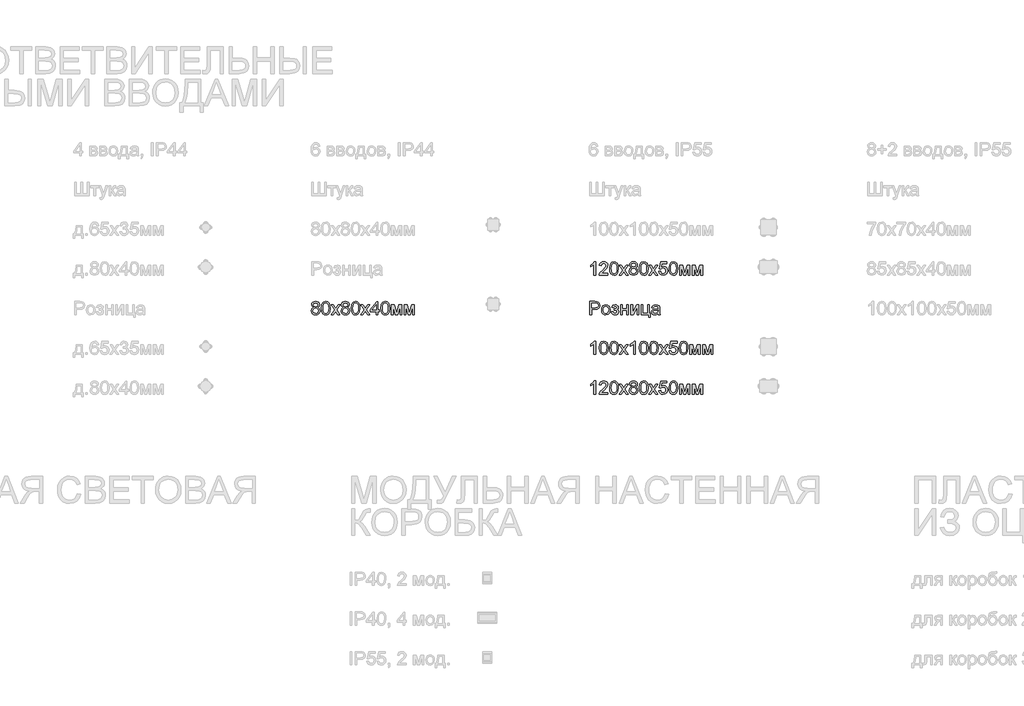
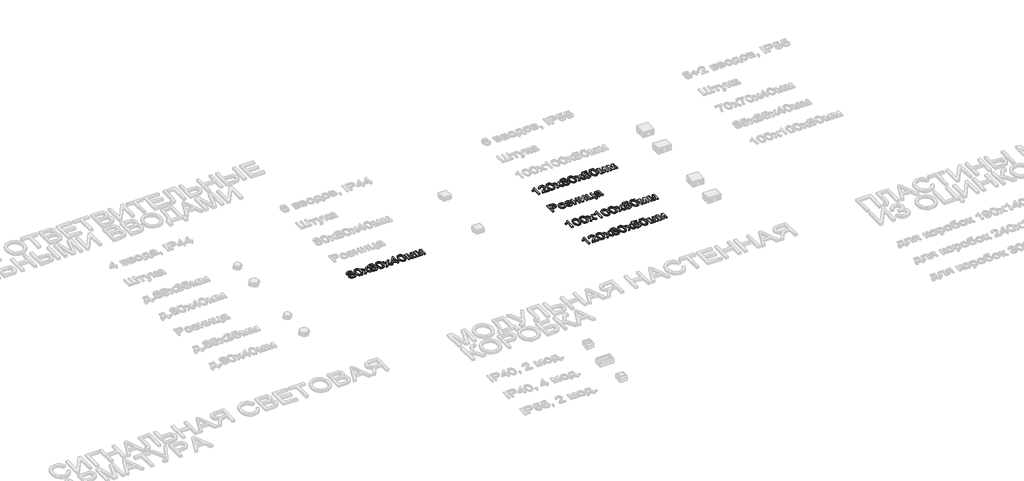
# One storey, part 14 of 98: 5 proxies.
"""IFC4 building model written with IfcOpenShell, lengths in millimetres."""

from ifc_helpers import new_model, si_unit, origin, origin_with_axes, place, context, project, spatial, polyline, outline, extrude, element, save

model = new_model("IFC4")

# Units and contexts
model_context = context("Model", 3, world=origin())
ifc_project = project(units=[si_unit("LENGTHUNIT", "METRE", prefix="MILLI")], contexts=[model_context])

# Site, building, storey
site = spatial("IfcSite", under=ifc_project)
building = spatial("IfcBuilding", under=site)
storey = spatial("IfcBuildingStorey", under=building, Name="Этаж 01", Elevation=0.0)

# Proxies
placement = place(None, origin())
element("IfcBuildingElementProxy", 1, Name="100", ObjectType="100", at=placement, inside=storey, context=model_context, shape_type="SweptSolid", body=[
    extrude(outline(polyline([(3868.7462166, -46304.1827144), (3857.3050866, -46296.3836161), (3853.5894784, -46284.2435102), (3855.6128294, -46274.4271923), (3861.6828823, -46266.3153943), (3871.1190555, -46260.8707408), (3883.2407672, -46259.0558563), (3895.4360554, -46260.9136604), (3904.9948559, -46266.4870726), (3911.1752734, -46274.7276293), (3913.2354126, -46284.5868668), (3909.5688553, -46296.4204043), (3898.4465563, -46304.1827144), (3911.8006728, -46314.0296891), (3916.3746722, -46330.2778106), (3914.1060666, -46342.2830264), (3907.3002497, -46352.2035775), (3896.7910874, -46358.8622416), (3883.4124455, -46361.0817963), (3870.0338036, -46358.8530446), (3859.5246413, -46352.1667893), (3852.7188243, -46342.151202), (3850.4502187, -46329.934454), (3855.2081592, -46313.3061879), (3868.7462166, -46304.1827144)]), holes=[polyline([(3866.1465172, -46284.6113922), (3870.5978893, -46294.4706297), (3883.5595983, -46298.2966025), (3896.2637898, -46294.4951552), (3900.6783738, -46285.175478), (3896.116637, -46275.524707), (3883.4124455, -46271.6128951), (3870.6714657, -46275.4388678), (3866.1465172, -46284.6113922)]), polyline([(3863.0072575, -46329.4929957), (3865.1041849, -46338.9475629), (3872.5231384, -46346.02316), (3883.5105473, -46348.5247575), (3892.0576724, -46347.2095794), (3898.4710818, -46343.264045), (3903.8176335, -46329.8854031), (3898.2994035, -46316.2492438), (3891.7388413, -46312.2025419), (3883.0936144, -46310.8536412), (3874.666051, -46312.1841478), (3868.3170209, -46316.1756674), (3863.0072575, -46329.4929957)])]), origin_with_axes(), (0.0, 0.0, 1.0), 10.0),
    extrude(outline(polyline([(3927.3620812, -46310.0933518), (3931.0531639, -46281.1900897), (3942.0160473, -46264.5250353), (3960.3243079, -46259.0558563), (3974.9905368, -46262.2932179), (3985.1195544, -46271.6251578), (3991.0056663, -46286.4875904), (3993.2865347, -46310.0933518), (3989.6322402, -46338.8739865), (3978.706145, -46355.5758291), (3970.4747853, -46359.7053045), (3960.3243079, -46361.0817963), (3947.2767598, -46358.6905633), (3937.3684714, -46351.5168644), (3929.8636787, -46334.5268476), (3927.3620812, -46310.0933518)]), holes=[polyline([(3939.9191199, -46310.0688263), (3941.3906479, -46329.8210238), (3945.8052319, -46341.2529568), (3952.3780568, -46346.7068073), (3960.3243079, -46348.5247575), (3968.270559, -46346.700676), (3974.843384, -46341.2284313), (3979.257968, -46329.7903669), (3980.7294959, -46310.0688263), (3979.3070189, -46290.7611529), (3975.0395877, -46279.2403151), (3968.4790255, -46273.5197501), (3960.1771551, -46271.6128951), (3952.3167432, -46273.2928895), (3946.0014356, -46278.3328729), (3941.4396988, -46290.5710806), (3939.9191199, -46310.0688263)])]), origin_with_axes(), (0.0, 0.0, 1.0), 10.0),
    extrude(outline(polyline([(3999.5650541, -46359.5121665), (4026.3959143, -46322.4296613), (4001.1346839, -46285.7395637), (4016.2423712, -46285.7395637), (4028.431528, -46303.3978995), (4034.1214362, -46311.736558), (4039.0510549, -46304.9184784), (4052.9324689, -46285.7395637), (4068.0401561, -46285.7395637), (4041.5036015, -46322.4296613), (4067.0591375, -46359.5121665), (4051.9514502, -46359.5121665), (4036.5739828, -46337.2185176), (4033.7535542, -46333.1472901), (4014.6727414, -46359.5121665), (3999.5650541, -46359.5121665)])), origin_with_axes(), (0.0, 0.0, 1.0), 10.0),
    extrude(outline(polyline([(4093.2032846, -46304.1827144), (4081.7621545, -46296.3836161), (4078.0465464, -46284.2435102), (4080.0698974, -46274.4271923), (4086.1399503, -46266.3153943), (4095.5761235, -46260.8707408), (4107.6978352, -46259.0558563), (4119.8931233, -46260.9136604), (4129.4519239, -46266.4870726), (4135.6323414, -46274.7276293), (4137.6924805, -46284.5868668), (4134.0259233, -46296.4204043), (4122.9036243, -46304.1827144), (4136.2577408, -46314.0296891), (4140.8317402, -46330.2778106), (4138.5631346, -46342.2830264), (4131.7573177, -46352.2035775), (4121.2481554, -46358.8622416), (4107.8695135, -46361.0817963), (4094.4908716, -46358.8530446), (4083.9817092, -46352.1667893), (4077.1758923, -46342.151202), (4074.9072867, -46329.934454), (4079.6652272, -46313.3061879), (4093.2032846, -46304.1827144)]), holes=[polyline([(4087.4643255, -46329.4929957), (4089.5612528, -46338.9475629), (4096.9802064, -46346.02316), (4107.9676153, -46348.5247575), (4116.5147404, -46347.2095794), (4122.9281498, -46343.264045), (4128.2747015, -46329.8854031), (4122.7564715, -46316.2492438), (4116.1959093, -46312.2025419), (4107.5506824, -46310.8536412), (4099.123119, -46312.1841478), (4092.7740889, -46316.1756674), (4087.4643255, -46329.4929957)]), polyline([(4090.6035852, -46284.6113922), (4095.0549573, -46294.4706297), (4108.0166663, -46298.2966025), (4120.7208578, -46294.4951552), (4125.1354418, -46285.175478), (4120.573705, -46275.524707), (4107.8695135, -46271.6128951), (4095.1285337, -46275.4388678), (4090.6035852, -46284.6113922)])]), origin_with_axes(), (0.0, 0.0, 1.0), 10.0),
    extrude(outline(polyline([(4151.8191492, -46310.0933518), (4155.5102318, -46281.1900897), (4166.4731153, -46264.5250353), (4184.7813759, -46259.0558563), (4199.4476048, -46262.2932179), (4209.5766224, -46271.6251578), (4215.4627343, -46286.4875904), (4217.7436027, -46310.0933518), (4214.0893082, -46338.8739865), (4203.163213, -46355.5758291), (4194.9318533, -46359.7053045), (4184.7813759, -46361.0817963), (4171.7338278, -46358.6905633), (4161.8255394, -46351.5168644), (4154.3207467, -46334.5268476), (4151.8191492, -46310.0933518)]), holes=[polyline([(4164.3761879, -46310.0688263), (4165.8477159, -46329.8210238), (4170.2622998, -46341.2529568), (4176.8351248, -46346.7068073), (4184.7813759, -46348.5247575), (4192.727627, -46346.700676), (4199.300452, -46341.2284313), (4203.7150359, -46329.7903669), (4205.1865639, -46310.0688263), (4203.7640869, -46290.7611529), (4199.4966557, -46279.2403151), (4192.9360935, -46273.5197501), (4184.6342231, -46271.6128951), (4176.7738112, -46273.2928895), (4170.4585036, -46278.3328729), (4165.8967668, -46290.5710806), (4164.3761879, -46310.0688263)])]), origin_with_axes(), (0.0, 0.0, 1.0), 10.0),
    extrude(outline(polyline([(4224.0221221, -46359.5121665), (4250.8529823, -46322.4296613), (4225.5917519, -46285.7395637), (4240.6994392, -46285.7395637), (4252.888596, -46303.3978995), (4258.5785042, -46311.736558), (4263.5081229, -46304.9184784), (4277.3895368, -46285.7395637), (4292.4972241, -46285.7395637), (4265.9606695, -46322.4296613), (4291.5162055, -46359.5121665), (4276.4085182, -46359.5121665), (4261.0310508, -46337.2185176), (4258.2106222, -46333.1472901), (4239.1298093, -46359.5121665), (4224.0221221, -46359.5121665)])), origin_with_axes(), (0.0, 0.0, 1.0), 10.0),
    extrude(outline(polyline([(4340.1747307, -46359.5121665), (4340.1747307, -46335.9677188), (4294.6554652, -46335.9677188), (4294.6554652, -46323.41068), (4343.3139904, -46260.6254862), (4352.7317695, -46260.6254862), (4352.7317695, -46323.41068), (4365.2888082, -46323.41068), (4365.2888082, -46335.9677188), (4352.7317695, -46335.9677188), (4352.7317695, -46359.5121665), (4340.1747307, -46359.5121665)]), holes=[polyline([(4340.1747307, -46323.41068), (4340.1747307, -46284.6113922), (4310.1065089, -46323.41068), (4340.1747307, -46323.41068)])]), origin_with_axes(), (0.0, 0.0, 1.0), 10.0),
    extrude(outline(polyline([(4376.2762171, -46310.0933518), (4379.9672998, -46281.1900897), (4390.9301833, -46264.5250353), (4409.2384439, -46259.0558563), (4423.9046728, -46262.2932179), (4434.0336904, -46271.6251578), (4439.9198023, -46286.4875904), (4442.2006707, -46310.0933518), (4438.5463762, -46338.8739865), (4427.6202809, -46355.5758291), (4419.3889213, -46359.7053045), (4409.2384439, -46361.0817963), (4396.1908958, -46358.6905633), (4386.2826074, -46351.5168644), (4378.7778147, -46334.5268476), (4376.2762171, -46310.0933518)]), holes=[polyline([(4388.8332559, -46310.0688263), (4390.3047839, -46329.8210238), (4394.7193678, -46341.2529568), (4401.2921928, -46346.7068073), (4409.2384439, -46348.5247575), (4417.184695, -46346.700676), (4423.75752, -46341.2284313), (4428.1721039, -46329.7903669), (4429.6436319, -46310.0688263), (4428.2211549, -46290.7611529), (4423.9537237, -46279.2403151), (4417.3931615, -46273.5197501), (4409.0912911, -46271.6128951), (4401.2308792, -46273.2928895), (4394.9155716, -46278.3328729), (4390.3538348, -46290.5710806), (4388.8332559, -46310.0688263)])]), origin_with_axes(), (0.0, 0.0, 1.0), 10.0),
    extrude(outline(polyline([(4456.3273393, -46285.7395637), (4477.9342751, -46285.7395637), (4494.5870668, -46344.7968867), (4512.5397082, -46285.7395637), (4533.2392018, -46285.7395637), (4533.2392018, -46359.5121665), (4520.682163, -46359.5121665), (4520.682163, -46300.111487), (4502.6314198, -46359.5121665), (4486.1503064, -46359.5121665), (4468.8843781, -46297.2665329), (4468.8843781, -46359.5121665), (4456.3273393, -46359.5121665), (4456.3273393, -46285.7395637)])), origin_with_axes(), (0.0, 0.0, 1.0), 10.0),
    extrude(outline(polyline([(4552.0747599, -46285.7395637), (4573.6816958, -46285.7395637), (4590.3344874, -46344.7968867), (4608.2871288, -46285.7395637), (4628.9866224, -46285.7395637), (4628.9866224, -46359.5121665), (4616.4295836, -46359.5121665), (4616.4295836, -46300.111487), (4598.3788404, -46359.5121665), (4581.897727, -46359.5121665), (4564.6317987, -46297.2665329), (4564.6317987, -46359.5121665), (4552.0747599, -46359.5121665), (4552.0747599, -46285.7395637)])), origin_with_axes(), (0.0, 0.0, 1.0), 10.0),
])
element("IfcBuildingElementProxy", 2, Name="100", ObjectType="100", at=placement, inside=storey, context=model_context, shape_type="SweptSolid", body=[
    extrude(outline(polyline([(5997.5391141, -46059.5121665), (5984.9820753, -46059.5121665), (5984.9820753, -45981.2268779), (5973.0872241, -45989.7004265), (5959.8679978, -45996.0402596), (5959.8679978, -45984.1699338), (5978.2743603, -45972.4222355), (5989.4457102, -45959.0558563), (5997.5391141, -45959.0558563), (5997.5391141, -46059.5121665)])), origin_with_axes(), (0.0, 0.0, 1.0), 10.0),
    extrude(outline(polyline([(6091.7169049, -46046.9551277), (6091.7169049, -46059.5121665), (6025.7924513, -46059.5121665), (6027.141352, -46050.8546768), (6034.768772, -46037.5250859), (6050.4895959, -46022.9692216), (6072.1701082, -46002.0489988), (6077.5902362, -45987.8242283), (6072.4766765, -45976.3095219), (6059.1225601, -45971.6128951), (6045.2043579, -45976.1991573), (6039.9191199, -45988.8788234), (6027.3620812, -45987.3091935), (6030.4063047, -45975.1629563), (6036.9883267, -45966.2908689), (6046.7647907, -45960.8646095), (6059.3923402, -45959.0558563), (6072.1118602, -45961.0669445), (6081.8699301, -45967.1002093), (6088.0779388, -45976.1133182), (6090.147275, -45987.0639389), (6087.9154576, -45998.9710528), (6080.496504, -46011.2828369), (6062.5070744, -46028.4874515), (6048.0615748, -46040.5662437), (6042.396192, -46046.9551277), (6091.7169049, -46046.9551277)])), origin_with_axes(), (0.0, 0.0, 1.0), 10.0),
    extrude(outline(polyline([(6104.2739436, -46010.0933518), (6107.9650263, -45981.1900897), (6118.9279098, -45964.5250353), (6137.2361704, -45959.0558563), (6151.9023993, -45962.2932179), (6162.0314169, -45971.6251578), (6167.9175288, -45986.4875904), (6170.1983972, -46010.0933518), (6166.5441027, -46038.8739865), (6155.6180074, -46055.5758291), (6147.3866478, -46059.7053045), (6137.2361704, -46061.0817963), (6124.1886223, -46058.6905633), (6114.2803339, -46051.5168644), (6106.7755412, -46034.5268476), (6104.2739436, -46010.0933518)]), holes=[polyline([(6116.8309824, -46010.0688263), (6118.3025104, -46029.8210238), (6122.7170943, -46041.2529568), (6129.2899193, -46046.7068073), (6137.2361704, -46048.5247575), (6145.1824215, -46046.700676), (6151.7552465, -46041.2284313), (6156.1698304, -46029.7903669), (6157.6413584, -46010.0688263), (6156.2188813, -45990.7611529), (6151.9514502, -45979.2403151), (6145.390888, -45973.5197501), (6137.0890176, -45971.6128951), (6129.2286056, -45973.2928895), (6122.913298, -45978.3328729), (6118.3515613, -45990.5710806), (6116.8309824, -46010.0688263)])]), origin_with_axes(), (0.0, 0.0, 1.0), 10.0),
    extrude(outline(polyline([(6176.4769165, -46059.5121665), (6203.3077767, -46022.4296613), (6178.0465464, -45985.7395637), (6193.1542337, -45985.7395637), (6205.3433904, -46003.3978995), (6211.0332986, -46011.736558), (6215.9629174, -46004.9184784), (6229.8443313, -45985.7395637), (6244.9520186, -45985.7395637), (6218.415464, -46022.4296613), (6243.9709999, -46059.5121665), (6228.8633127, -46059.5121665), (6213.4858453, -46037.2185176), (6210.6654166, -46033.1472901), (6191.5846038, -46059.5121665), (6176.4769165, -46059.5121665)])), origin_with_axes(), (0.0, 0.0, 1.0), 10.0),
    extrude(outline(polyline([(6270.1151471, -46004.1827144), (6258.674017, -45996.3836161), (6254.9584089, -45984.2435102), (6256.9817598, -45974.4271923), (6263.0518127, -45966.3153943), (6272.4879859, -45960.8707408), (6284.6096977, -45959.0558563), (6296.8049858, -45960.9136604), (6306.3637863, -45966.4870726), (6312.5442038, -45974.7276293), (6314.604343, -45984.5868668), (6310.9377858, -45996.4204043), (6299.8154868, -46004.1827144), (6313.1696032, -46014.0296891), (6317.7436027, -46030.2778106), (6315.4749971, -46042.2830264), (6308.6691801, -46052.2035775), (6298.1600178, -46058.8622416), (6284.7813759, -46061.0817963), (6271.402734, -46058.8530446), (6260.8935717, -46052.1667893), (6254.0877548, -46042.151202), (6251.8191492, -46029.934454), (6256.5770896, -46013.3061879), (6270.1151471, -46004.1827144)]), holes=[polyline([(6264.3761879, -46029.4929957), (6266.4731153, -46038.9475629), (6273.8920689, -46046.02316), (6284.8794778, -46048.5247575), (6293.4266028, -46047.2095794), (6299.8400123, -46043.264045), (6305.1865639, -46029.8854031), (6299.668334, -46016.2492438), (6293.1077717, -46012.2025419), (6284.4625449, -46010.8536412), (6276.0349815, -46012.1841478), (6269.6859514, -46016.1756674), (6264.3761879, -46029.4929957)]), polyline([(6267.5154476, -45984.6113922), (6271.9668198, -45994.4706297), (6284.9285287, -45998.2966025), (6297.6327203, -45994.4951552), (6302.0473042, -45985.175478), (6297.4855675, -45975.524707), (6284.7813759, -45971.6128951), (6272.0403962, -45975.4388678), (6267.5154476, -45984.6113922)])]), origin_with_axes(), (0.0, 0.0, 1.0), 10.0),
    extrude(outline(polyline([(6328.7310116, -46010.0933518), (6332.4220943, -45981.1900897), (6343.3849778, -45964.5250353), (6361.6932384, -45959.0558563), (6376.3594673, -45962.2932179), (6386.4884849, -45971.6251578), (6392.3745968, -45986.4875904), (6394.6554652, -46010.0933518), (6391.0011707, -46038.8739865), (6380.0750754, -46055.5758291), (6371.8437158, -46059.7053045), (6361.6932384, -46061.0817963), (6348.6456903, -46058.6905633), (6338.7374019, -46051.5168644), (6331.2326092, -46034.5268476), (6328.7310116, -46010.0933518)]), holes=[polyline([(6341.2880504, -46010.0688263), (6342.7595784, -46029.8210238), (6347.1741623, -46041.2529568), (6353.7469873, -46046.7068073), (6361.6932384, -46048.5247575), (6369.6394895, -46046.700676), (6376.2123145, -46041.2284313), (6380.6268984, -46029.7903669), (6382.0984264, -46010.0688263), (6380.6759493, -45990.7611529), (6376.4085182, -45979.2403151), (6369.8479559, -45973.5197501), (6361.5460856, -45971.6128951), (6353.6856736, -45973.2928895), (6347.370366, -45978.3328729), (6342.8086293, -45990.5710806), (6341.2880504, -46010.0688263)])]), origin_with_axes(), (0.0, 0.0, 1.0), 10.0),
    extrude(outline(polyline([(6400.9339845, -46059.5121665), (6427.7648447, -46022.4296613), (6402.5036144, -45985.7395637), (6417.6113017, -45985.7395637), (6429.8004584, -46003.3978995), (6435.4903666, -46011.736558), (6440.4199854, -46004.9184784), (6454.3013993, -45985.7395637), (6469.4090866, -45985.7395637), (6442.872532, -46022.4296613), (6468.4280679, -46059.5121665), (6453.3203806, -46059.5121665), (6437.9429133, -46037.2185176), (6435.1224846, -46033.1472901), (6416.0416718, -46059.5121665), (6400.9339845, -46059.5121665)])), origin_with_axes(), (0.0, 0.0, 1.0), 10.0),
    extrude(outline(polyline([(6476.2762171, -46032.8284591), (6488.8332559, -46031.2588292), (6495.1608262, -46044.1960127), (6508.2819507, -46048.5247575), (6517.2827969, -46047.019507), (6524.0273001, -46042.5037555), (6528.239549, -46035.4986692), (6529.6436319, -46026.5254142), (6524.3829194, -46011.6139307), (6517.7763719, -46007.5120464), (6508.4781545, -46006.1447517), (6497.4539573, -46008.3275182), (6490.4028858, -46013.9929009), (6477.845847, -46012.4232711), (6488.8332559, -45960.6254862), (6537.4917811, -45960.6254862), (6537.4917811, -45973.1825249), (6498.986799, -45973.1825249), (6493.6157219, -46000.847251), (6502.5859112, -45995.4025974), (6511.9852961, -45993.5877129), (6523.7176661, -45995.8379245), (6533.4573419, -46002.5885591), (6540.0148385, -46012.8769922), (6542.2006707, -46025.7405993), (6540.232502, -46038.2976381), (6534.327996, -46049.0397923), (6523.021756, -46058.0712953), (6508.2328998, -46061.0817963), (6495.8996559, -46059.1473501), (6486.074141, -46053.3440117), (6479.3388348, -46044.3462312), (6476.2762171, -46032.8284591)])), origin_with_axes(), (0.0, 0.0, 1.0), 10.0),
    extrude(outline(polyline([(6553.1880796, -46010.0933518), (6556.8791623, -45981.1900897), (6567.8420457, -45964.5250353), (6586.1503064, -45959.0558563), (6600.8165352, -45962.2932179), (6610.9455528, -45971.6251578), (6616.8316648, -45986.4875904), (6619.1125331, -46010.0933518), (6615.4582387, -46038.8739865), (6604.5321434, -46055.5758291), (6596.3007838, -46059.7053045), (6586.1503064, -46061.0817963), (6573.1027583, -46058.6905633), (6563.1944699, -46051.5168644), (6555.6896772, -46034.5268476), (6553.1880796, -46010.0933518)]), holes=[polyline([(6565.7451184, -46010.0688263), (6567.2166464, -46029.8210238), (6571.6312303, -46041.2529568), (6578.2040553, -46046.7068073), (6586.1503064, -46048.5247575), (6594.0965575, -46046.700676), (6600.6693825, -46041.2284313), (6605.0839664, -46029.7903669), (6606.5554944, -46010.0688263), (6605.1330173, -45990.7611529), (6600.8655862, -45979.2403151), (6594.3050239, -45973.5197501), (6586.0031536, -45971.6128951), (6578.1427416, -45973.2928895), (6571.827434, -45978.3328729), (6567.2656973, -45990.5710806), (6565.7451184, -46010.0688263)])]), origin_with_axes(), (0.0, 0.0, 1.0), 10.0),
    extrude(outline(polyline([(6633.2392018, -45985.7395637), (6654.8461376, -45985.7395637), (6671.4989293, -46044.7968867), (6689.4515706, -45985.7395637), (6710.1510642, -45985.7395637), (6710.1510642, -46059.5121665), (6697.5940254, -46059.5121665), (6697.5940254, -46000.111487), (6679.5432822, -46059.5121665), (6663.0621688, -46059.5121665), (6645.7962405, -45997.2665329), (6645.7962405, -46059.5121665), (6633.2392018, -46059.5121665), (6633.2392018, -45985.7395637)])), origin_with_axes(), (0.0, 0.0, 1.0), 10.0),
    extrude(outline(polyline([(6728.9866224, -45985.7395637), (6750.5935582, -45985.7395637), (6767.2463499, -46044.7968867), (6785.1989912, -45985.7395637), (6805.8984848, -45985.7395637), (6805.8984848, -46059.5121665), (6793.3414461, -46059.5121665), (6793.3414461, -46000.111487), (6775.2907028, -46059.5121665), (6758.8095894, -46059.5121665), (6741.5436611, -45997.2665329), (6741.5436611, -46059.5121665), (6728.9866224, -46059.5121665), (6728.9866224, -45985.7395637)])), origin_with_axes(), (0.0, 0.0, 1.0), 10.0),
])
element("IfcBuildingElementProxy", 3, Name="100", ObjectType="100", at=placement, inside=storey, context=model_context, shape_type="SweptSolid", body=[
    extrude(outline(polyline([(5955.1591082, -46359.5121665), (5955.1591082, -46259.0558563), (5992.3887662, -46259.0558563), (6007.3983516, -46260.0123495), (6019.5997711, -46264.7089763), (6027.509234, -46274.421061), (6030.5013409, -46288.1185339), (6028.4810556, -46299.9582028), (6022.4201997, -46309.8235716), (6011.0863686, -46316.4822358), (5993.2471575, -46318.7017905), (5967.716147, -46318.7017905), (5967.716147, -46359.5121665), (5955.1591082, -46359.5121665)]), holes=[polyline([(5967.716147, -46306.1447517), (5993.9829215, -46306.1447517), (6012.4751231, -46301.533964), (6016.5770073, -46295.9850773), (6017.9443021, -46288.5599923), (6014.7192033, -46278.1611946), (6006.2456546, -46272.4712864), (5993.6886159, -46271.6128951), (5967.716147, -46271.6128951), (5967.716147, -46306.1447517)])]), origin_with_axes(), (0.0, 0.0, 1.0), 10.0),
    extrude(outline(polyline([(6043.0583796, -46322.6258651), (6045.774575, -46304.8387706), (6053.9231612, -46292.3369141), (6063.9908652, -46286.2116789), (6076.0451319, -46284.1699338), (6089.2367671, -46286.656203), (6099.7735206, -46294.1150104), (6106.680505, -46305.957745), (6108.9828332, -46321.5957955), (6104.9116058, -46343.9384953), (6093.0535428, -46356.5813732), (6076.0451319, -46361.0817963), (6062.6940811, -46358.6047242), (6052.1695904, -46351.1735079), (6045.3361823, -46339.082453), (6043.0583796, -46322.6258651)]), holes=[polyline([(6055.6154184, -46322.6013396), (6057.0685523, -46333.9658276), (6061.4279539, -46342.0622972), (6067.9885162, -46346.9091424), (6076.0451319, -46348.5247575), (6084.0649594, -46346.8999454), (6090.6132589, -46342.025509), (6094.9726605, -46333.8217405), (6096.4257944, -46322.2089321), (6094.9634635, -46311.175538), (6090.5764707, -46303.189433), (6084.0189741, -46298.3425877), (6076.0451319, -46296.7269726), (6067.9885162, -46298.3364563), (6061.4279539, -46303.1649075), (6057.0685523, -46311.242983), (6055.6154184, -46322.6013396)])]), origin_with_axes(), (0.0, 0.0, 1.0), 10.0),
    extrude(outline(polyline([(6140.3754301, -46326.5499397), (6140.3754301, -46313.9929009), (6150.2837185, -46313.5023916), (6155.2869136, -46310.8904294), (6157.6413584, -46305.4335132), (6154.489836, -46299.0936801), (6146.3596439, -46296.7269726), (6137.9596717, -46299.0814174), (6132.5272809, -46306.1447517), (6118.4006122, -46304.5751218), (6127.8429168, -46289.2712308), (6145.0843196, -46284.1699338), (6155.5812192, -46285.7242353), (6163.5274703, -46290.3871396), (6168.5306654, -46297.2082849), (6170.1983972, -46305.2373094), (6167.8255583, -46313.0364077), (6160.7070417, -46319.0696725), (6169.008912, -46326.8932962), (6171.768027, -46338.1504853), (6170.0175218, -46347.3935204), (6164.7660064, -46354.7174378), (6156.3690998, -46359.4907067), (6145.1824215, -46361.0817963), (6134.2409978, -46359.6102683), (6125.8686167, -46355.1956844), (6120.0652783, -46347.8380445), (6116.8309824, -46337.5373486), (6130.957651, -46335.9677188), (6136.6230337, -46345.238345), (6146.3841693, -46348.5247575), (6155.5566938, -46345.3732351), (6159.2109882, -46337.3166194), (6156.9423826, -46330.719269), (6152.1108657, -46327.1876018), (6142.8279767, -46326.4763633), (6140.3754301, -46326.5499397)])), origin_with_axes(), (0.0, 0.0, 1.0), 10.0),
    extrude(outline(polyline([(6187.4643255, -46285.7395637), (6200.0213642, -46285.7395637), (6200.0213642, -46313.9929009), (6232.983591, -46313.9929009), (6232.983591, -46285.7395637), (6245.5406298, -46285.7395637), (6245.5406298, -46359.5121665), (6232.983591, -46359.5121665), (6232.983591, -46326.5499397), (6200.0213642, -46326.5499397), (6200.0213642, -46359.5121665), (6187.4643255, -46359.5121665), (6187.4643255, -46285.7395637)])), origin_with_axes(), (0.0, 0.0, 1.0), 10.0),
    extrude(outline(polyline([(6264.3761879, -46285.7395637), (6276.9332267, -46285.7395637), (6276.9332267, -46342.0009835), (6307.7862634, -46285.7395637), (6324.0221221, -46285.7395637), (6324.0221221, -46359.5121665), (6311.4650833, -46359.5121665), (6311.4650833, -46303.5941032), (6280.8082504, -46359.5121665), (6264.3761879, -46359.5121665), (6264.3761879, -46285.7395637)])), origin_with_axes(), (0.0, 0.0, 1.0), 10.0),
    extrude(outline(polyline([(6342.8576802, -46285.7395637), (6355.414719, -46285.7395637), (6355.414719, -46346.9551277), (6391.5162055, -46346.9551277), (6391.5162055, -46285.7395637), (6404.0732442, -46285.7395637), (6404.0732442, -46346.9551277), (6411.9213935, -46346.9551277), (6411.9213935, -46379.9173545), (6399.3643547, -46379.9173545), (6399.3643547, -46359.5121665), (6342.8576802, -46359.5121665), (6342.8576802, -46285.7395637)])), origin_with_axes(), (0.0, 0.0, 1.0), 10.0),
    extrude(outline(polyline([(6469.9976978, -46350.0943874), (6457.8208037, -46358.6047242), (6444.3685854, -46361.0817963), (6433.8747515, -46359.5918742), (6426.1339012, -46355.122108), (6421.3606323, -46348.3346852), (6419.7695427, -46339.8917934), (6422.1730384, -46329.9589795), (6428.488346, -46322.7484924), (6437.2807257, -46318.6282141), (6448.1455073, -46316.7397532), (6469.9241214, -46312.4232711), (6469.9976978, -46309.6273679), (6466.539607, -46300.3567416), (6452.6581931, -46296.7269726), (6439.9540015, -46299.142731), (6433.8962113, -46307.7143815), (6421.3391725, -46306.1447517), (6426.7715633, -46293.8820185), (6437.7099213, -46286.6960569), (6454.2768738, -46284.1699338), (6469.4949257, -46286.4017513), (6478.0911017, -46292.0058203), (6481.9415999, -46300.5284199), (6482.5547365, -46311.5158288), (6482.5547365, -46327.1385509), (6483.1923987, -46348.9539532), (6485.6939962, -46359.5121665), (6473.1369575, -46359.5121665), (6469.9976978, -46350.0943874)]), holes=[polyline([(6469.9976978, -46324.9803098), (6449.7396626, -46328.8308081), (6438.9361946, -46330.8664218), (6434.0433641, -46334.1773597), (6432.3265815, -46339.0088766), (6436.0667151, -46345.8024308), (6447.0418613, -46348.5247575), (6459.7460528, -46345.5203879), (6467.9375586, -46338.2485871), (6469.9241214, -46328.5365025), (6469.9976978, -46324.9803098)])]), origin_with_axes(), (0.0, 0.0, 1.0), 10.0),
])
element("IfcBuildingElementProxy", 4, Name="100", ObjectType="100", at=placement, inside=storey, context=model_context, shape_type="SweptSolid", body=[
    extrude(outline(polyline([(5997.5391141, -46659.5121665), (5984.9820753, -46659.5121665), (5984.9820753, -46581.2268779), (5973.0872241, -46589.7004265), (5959.8679978, -46596.0402596), (5959.8679978, -46584.1699338), (5978.2743603, -46572.4222355), (5989.4457102, -46559.0558563), (5997.5391141, -46559.0558563), (5997.5391141, -46659.5121665)])), origin_with_axes(), (0.0, 0.0, 1.0), 10.0),
    extrude(outline(polyline([(6027.3620812, -46610.0933518), (6031.0531639, -46581.1900897), (6042.0160473, -46564.5250353), (6060.3243079, -46559.0558563), (6074.9905368, -46562.2932179), (6085.1195544, -46571.6251578), (6091.0056663, -46586.4875904), (6093.2865347, -46610.0933518), (6089.6322402, -46638.8739865), (6078.706145, -46655.5758291), (6070.4747853, -46659.7053045), (6060.3243079, -46661.0817963), (6047.2767598, -46658.6905633), (6037.3684714, -46651.5168644), (6029.8636787, -46634.5268476), (6027.3620812, -46610.0933518)]), holes=[polyline([(6039.9191199, -46610.0688263), (6041.3906479, -46629.8210238), (6045.8052319, -46641.2529568), (6052.3780568, -46646.7068073), (6060.3243079, -46648.5247575), (6068.270559, -46646.700676), (6074.843384, -46641.2284313), (6079.257968, -46629.7903669), (6080.7294959, -46610.0688263), (6079.3070189, -46590.7611529), (6075.0395877, -46579.2403151), (6068.4790255, -46573.5197501), (6060.1771551, -46571.6128951), (6052.3167432, -46573.2928895), (6046.0014356, -46578.3328729), (6041.4396988, -46590.5710806), (6039.9191199, -46610.0688263)])]), origin_with_axes(), (0.0, 0.0, 1.0), 10.0),
    extrude(outline(polyline([(6104.2739436, -46610.0933518), (6107.9650263, -46581.1900897), (6118.9279098, -46564.5250353), (6137.2361704, -46559.0558563), (6151.9023993, -46562.2932179), (6162.0314169, -46571.6251578), (6167.9175288, -46586.4875904), (6170.1983972, -46610.0933518), (6166.5441027, -46638.8739865), (6155.6180074, -46655.5758291), (6147.3866478, -46659.7053045), (6137.2361704, -46661.0817963), (6124.1886223, -46658.6905633), (6114.2803339, -46651.5168644), (6106.7755412, -46634.5268476), (6104.2739436, -46610.0933518)]), holes=[polyline([(6116.8309824, -46610.0688263), (6118.3025104, -46629.8210238), (6122.7170943, -46641.2529568), (6129.2899193, -46646.7068073), (6137.2361704, -46648.5247575), (6145.1824215, -46646.700676), (6151.7552465, -46641.2284313), (6156.1698304, -46629.7903669), (6157.6413584, -46610.0688263), (6156.2188813, -46590.7611529), (6151.9514502, -46579.2403151), (6145.390888, -46573.5197501), (6137.0890176, -46571.6128951), (6129.2286056, -46573.2928895), (6122.913298, -46578.3328729), (6118.3515613, -46590.5710806), (6116.8309824, -46610.0688263)])]), origin_with_axes(), (0.0, 0.0, 1.0), 10.0),
    extrude(outline(polyline([(6176.4769165, -46659.5121665), (6203.3077767, -46622.4296613), (6178.0465464, -46585.7395637), (6193.1542337, -46585.7395637), (6205.3433904, -46603.3978995), (6211.0332986, -46611.736558), (6215.9629174, -46604.9184784), (6229.8443313, -46585.7395637), (6244.9520186, -46585.7395637), (6218.415464, -46622.4296613), (6243.9709999, -46659.5121665), (6228.8633127, -46659.5121665), (6213.4858453, -46637.2185176), (6210.6654166, -46633.1472901), (6191.5846038, -46659.5121665), (6176.4769165, -46659.5121665)])), origin_with_axes(), (0.0, 0.0, 1.0), 10.0),
    extrude(outline(polyline([(6298.9080445, -46659.5121665), (6286.3510058, -46659.5121665), (6286.3510058, -46581.2268779), (6274.4561546, -46589.7004265), (6261.2369282, -46596.0402596), (6261.2369282, -46584.1699338), (6279.6432907, -46572.4222355), (6290.8146406, -46559.0558563), (6298.9080445, -46559.0558563), (6298.9080445, -46659.5121665)])), origin_with_axes(), (0.0, 0.0, 1.0), 10.0),
    extrude(outline(polyline([(6328.7310116, -46610.0933518), (6332.4220943, -46581.1900897), (6343.3849778, -46564.5250353), (6361.6932384, -46559.0558563), (6376.3594673, -46562.2932179), (6386.4884849, -46571.6251578), (6392.3745968, -46586.4875904), (6394.6554652, -46610.0933518), (6391.0011707, -46638.8739865), (6380.0750754, -46655.5758291), (6371.8437158, -46659.7053045), (6361.6932384, -46661.0817963), (6348.6456903, -46658.6905633), (6338.7374019, -46651.5168644), (6331.2326092, -46634.5268476), (6328.7310116, -46610.0933518)]), holes=[polyline([(6341.2880504, -46610.0688263), (6342.7595784, -46629.8210238), (6347.1741623, -46641.2529568), (6353.7469873, -46646.7068073), (6361.6932384, -46648.5247575), (6369.6394895, -46646.700676), (6376.2123145, -46641.2284313), (6380.6268984, -46629.7903669), (6382.0984264, -46610.0688263), (6380.6759493, -46590.7611529), (6376.4085182, -46579.2403151), (6369.8479559, -46573.5197501), (6361.5460856, -46571.6128951), (6353.6856736, -46573.2928895), (6347.370366, -46578.3328729), (6342.8086293, -46590.5710806), (6341.2880504, -46610.0688263)])]), origin_with_axes(), (0.0, 0.0, 1.0), 10.0),
    extrude(outline(polyline([(6405.6428741, -46610.0933518), (6409.3339568, -46581.1900897), (6420.2968402, -46564.5250353), (6438.6051008, -46559.0558563), (6453.2713297, -46562.2932179), (6463.4003473, -46571.6251578), (6469.2864592, -46586.4875904), (6471.5673276, -46610.0933518), (6467.9130331, -46638.8739865), (6456.9869379, -46655.5758291), (6448.7555782, -46659.7053045), (6438.6051008, -46661.0817963), (6425.5575527, -46658.6905633), (6415.6492643, -46651.5168644), (6408.1444716, -46634.5268476), (6405.6428741, -46610.0933518)]), holes=[polyline([(6418.1999128, -46610.0688263), (6419.6714408, -46629.8210238), (6424.0860248, -46641.2529568), (6430.6588497, -46646.7068073), (6438.6051008, -46648.5247575), (6446.5513519, -46646.700676), (6453.1241769, -46641.2284313), (6457.5387609, -46629.7903669), (6459.0102888, -46610.0688263), (6457.5878118, -46590.7611529), (6453.3203806, -46579.2403151), (6446.7598184, -46573.5197501), (6438.457948, -46571.6128951), (6430.5975361, -46573.2928895), (6424.2822285, -46578.3328729), (6419.7204918, -46590.5710806), (6418.1999128, -46610.0688263)])]), origin_with_axes(), (0.0, 0.0, 1.0), 10.0),
    extrude(outline(polyline([(6477.845847, -46659.5121665), (6504.6767072, -46622.4296613), (6479.4154768, -46585.7395637), (6494.5231641, -46585.7395637), (6506.7123209, -46603.3978995), (6512.4022291, -46611.736558), (6517.3318478, -46604.9184784), (6531.2132618, -46585.7395637), (6546.320949, -46585.7395637), (6519.7843944, -46622.4296613), (6545.3399304, -46659.5121665), (6530.2322431, -46659.5121665), (6514.8547757, -46637.2185176), (6512.0343471, -46633.1472901), (6492.9535343, -46659.5121665), (6477.845847, -46659.5121665)])), origin_with_axes(), (0.0, 0.0, 1.0), 10.0),
    extrude(outline(polyline([(6553.1880796, -46632.8284591), (6565.7451184, -46631.2588292), (6572.0726887, -46644.1960127), (6585.1938132, -46648.5247575), (6594.1946593, -46647.019507), (6600.9391626, -46642.5037555), (6605.1514114, -46635.4986692), (6606.5554944, -46626.5254142), (6601.2947818, -46611.6139307), (6594.6882343, -46607.5120464), (6585.3900169, -46606.1447517), (6574.3658198, -46608.3275182), (6567.3147482, -46613.9929009), (6554.7577095, -46612.4232711), (6565.7451184, -46560.6254862), (6614.4036436, -46560.6254862), (6614.4036436, -46573.1825249), (6575.8986614, -46573.1825249), (6570.5275843, -46600.847251), (6579.4977736, -46595.4025974), (6588.8971586, -46593.5877129), (6600.6295286, -46595.8379245), (6610.3692044, -46602.5885591), (6616.926701, -46612.8769922), (6619.1125331, -46625.7405993), (6617.1443645, -46638.2976381), (6611.2398584, -46649.0397923), (6599.9336185, -46658.0712953), (6585.1447623, -46661.0817963), (6572.8115184, -46659.1473501), (6562.9860034, -46653.3440117), (6556.2506972, -46644.3462312), (6553.1880796, -46632.8284591)])), origin_with_axes(), (0.0, 0.0, 1.0), 10.0),
    extrude(outline(polyline([(6630.0999421, -46610.0933518), (6633.7910248, -46581.1900897), (6644.7539082, -46564.5250353), (6663.0621688, -46559.0558563), (6677.7283977, -46562.2932179), (6687.8574153, -46571.6251578), (6693.7435272, -46586.4875904), (6696.0243956, -46610.0933518), (6692.3701011, -46638.8739865), (6681.4440059, -46655.5758291), (6673.2126462, -46659.7053045), (6663.0621688, -46661.0817963), (6650.0146207, -46658.6905633), (6640.1063323, -46651.5168644), (6632.6015396, -46634.5268476), (6630.0999421, -46610.0933518)]), holes=[polyline([(6642.6569808, -46610.0688263), (6644.1285088, -46629.8210238), (6648.5430928, -46641.2529568), (6655.1159177, -46646.7068073), (6663.0621688, -46648.5247575), (6671.0084199, -46646.700676), (6677.5812449, -46641.2284313), (6681.9958289, -46629.7903669), (6683.4673568, -46610.0688263), (6682.0448798, -46590.7611529), (6677.7774486, -46579.2403151), (6671.2168864, -46573.5197501), (6662.915016, -46571.6128951), (6655.0546041, -46573.2928895), (6648.7392965, -46578.3328729), (6644.1775597, -46590.5710806), (6642.6569808, -46610.0688263)])]), origin_with_axes(), (0.0, 0.0, 1.0), 10.0),
    extrude(outline(polyline([(6710.1510642, -46585.7395637), (6731.7580001, -46585.7395637), (6748.4107917, -46644.7968867), (6766.3634331, -46585.7395637), (6787.0629267, -46585.7395637), (6787.0629267, -46659.5121665), (6774.5058879, -46659.5121665), (6774.5058879, -46600.111487), (6756.4551447, -46659.5121665), (6739.9740313, -46659.5121665), (6722.708103, -46597.2665329), (6722.708103, -46659.5121665), (6710.1510642, -46659.5121665), (6710.1510642, -46585.7395637)])), origin_with_axes(), (0.0, 0.0, 1.0), 10.0),
    extrude(outline(polyline([(6805.8984848, -46585.7395637), (6827.5054207, -46585.7395637), (6844.1582123, -46644.7968867), (6862.1108537, -46585.7395637), (6882.8103473, -46585.7395637), (6882.8103473, -46659.5121665), (6870.2533085, -46659.5121665), (6870.2533085, -46600.111487), (6852.2025653, -46659.5121665), (6835.7214519, -46659.5121665), (6818.4555236, -46597.2665329), (6818.4555236, -46659.5121665), (6805.8984848, -46659.5121665), (6805.8984848, -46585.7395637)])), origin_with_axes(), (0.0, 0.0, 1.0), 10.0),
])
element("IfcBuildingElementProxy", 5, Name="100", ObjectType="100", at=placement, inside=storey, context=model_context, shape_type="SweptSolid", body=[
    extrude(outline(polyline([(5997.5391141, -46959.5121665), (5984.9820753, -46959.5121665), (5984.9820753, -46881.2268779), (5973.0872241, -46889.7004265), (5959.8679978, -46896.0402596), (5959.8679978, -46884.1699338), (5978.2743603, -46872.4222355), (5989.4457102, -46859.0558563), (5997.5391141, -46859.0558563), (5997.5391141, -46959.5121665)])), origin_with_axes(), (0.0, 0.0, 1.0), 10.0),
    extrude(outline(polyline([(6091.7169049, -46946.9551277), (6091.7169049, -46959.5121665), (6025.7924513, -46959.5121665), (6027.141352, -46950.8546768), (6034.768772, -46937.5250859), (6050.4895959, -46922.9692216), (6072.1701082, -46902.0489988), (6077.5902362, -46887.8242283), (6072.4766765, -46876.3095219), (6059.1225601, -46871.6128951), (6045.2043579, -46876.1991573), (6039.9191199, -46888.8788234), (6027.3620812, -46887.3091935), (6030.4063047, -46875.1629563), (6036.9883267, -46866.2908689), (6046.7647907, -46860.8646095), (6059.3923402, -46859.0558563), (6072.1118602, -46861.0669445), (6081.8699301, -46867.1002093), (6088.0779388, -46876.1133182), (6090.147275, -46887.0639389), (6087.9154576, -46898.9710528), (6080.496504, -46911.2828369), (6062.5070744, -46928.4874515), (6048.0615748, -46940.5662437), (6042.396192, -46946.9551277), (6091.7169049, -46946.9551277)])), origin_with_axes(), (0.0, 0.0, 1.0), 10.0),
    extrude(outline(polyline([(6104.2739436, -46910.0933518), (6107.9650263, -46881.1900897), (6118.9279098, -46864.5250353), (6137.2361704, -46859.0558563), (6151.9023993, -46862.2932179), (6162.0314169, -46871.6251578), (6167.9175288, -46886.4875904), (6170.1983972, -46910.0933518), (6166.5441027, -46938.8739865), (6155.6180074, -46955.5758291), (6147.3866478, -46959.7053045), (6137.2361704, -46961.0817963), (6124.1886223, -46958.6905633), (6114.2803339, -46951.5168644), (6106.7755412, -46934.5268476), (6104.2739436, -46910.0933518)]), holes=[polyline([(6116.8309824, -46910.0688263), (6118.3025104, -46929.8210238), (6122.7170943, -46941.2529568), (6129.2899193, -46946.7068073), (6137.2361704, -46948.5247575), (6145.1824215, -46946.700676), (6151.7552465, -46941.2284313), (6156.1698304, -46929.7903669), (6157.6413584, -46910.0688263), (6156.2188813, -46890.7611529), (6151.9514502, -46879.2403151), (6145.390888, -46873.5197501), (6137.0890176, -46871.6128951), (6129.2286056, -46873.2928895), (6122.913298, -46878.3328729), (6118.3515613, -46890.5710806), (6116.8309824, -46910.0688263)])]), origin_with_axes(), (0.0, 0.0, 1.0), 10.0),
    extrude(outline(polyline([(6176.4769165, -46959.5121665), (6203.3077767, -46922.4296613), (6178.0465464, -46885.7395637), (6193.1542337, -46885.7395637), (6205.3433904, -46903.3978995), (6211.0332986, -46911.736558), (6215.9629174, -46904.9184784), (6229.8443313, -46885.7395637), (6244.9520186, -46885.7395637), (6218.415464, -46922.4296613), (6243.9709999, -46959.5121665), (6228.8633127, -46959.5121665), (6213.4858453, -46937.2185176), (6210.6654166, -46933.1472901), (6191.5846038, -46959.5121665), (6176.4769165, -46959.5121665)])), origin_with_axes(), (0.0, 0.0, 1.0), 10.0),
    extrude(outline(polyline([(6270.1151471, -46904.1827144), (6258.674017, -46896.3836161), (6254.9584089, -46884.2435102), (6256.9817598, -46874.4271923), (6263.0518127, -46866.3153943), (6272.4879859, -46860.8707408), (6284.6096977, -46859.0558563), (6296.8049858, -46860.9136604), (6306.3637863, -46866.4870726), (6312.5442038, -46874.7276293), (6314.604343, -46884.5868668), (6310.9377858, -46896.4204043), (6299.8154868, -46904.1827144), (6313.1696032, -46914.0296891), (6317.7436027, -46930.2778106), (6315.4749971, -46942.2830264), (6308.6691801, -46952.2035775), (6298.1600178, -46958.8622416), (6284.7813759, -46961.0817963), (6271.402734, -46958.8530446), (6260.8935717, -46952.1667893), (6254.0877548, -46942.151202), (6251.8191492, -46929.934454), (6256.5770896, -46913.3061879), (6270.1151471, -46904.1827144)]), holes=[polyline([(6264.3761879, -46929.4929957), (6266.4731153, -46938.9475629), (6273.8920689, -46946.02316), (6284.8794778, -46948.5247575), (6293.4266028, -46947.2095794), (6299.8400123, -46943.264045), (6305.1865639, -46929.8854031), (6299.668334, -46916.2492438), (6293.1077717, -46912.2025419), (6284.4625449, -46910.8536412), (6276.0349815, -46912.1841478), (6269.6859514, -46916.1756674), (6264.3761879, -46929.4929957)]), polyline([(6267.5154476, -46884.6113922), (6271.9668198, -46894.4706297), (6284.9285287, -46898.2966025), (6297.6327203, -46894.4951552), (6302.0473042, -46885.175478), (6297.4855675, -46875.524707), (6284.7813759, -46871.6128951), (6272.0403962, -46875.4388678), (6267.5154476, -46884.6113922)])]), origin_with_axes(), (0.0, 0.0, 1.0), 10.0),
    extrude(outline(polyline([(6328.7310116, -46910.0933518), (6332.4220943, -46881.1900897), (6343.3849778, -46864.5250353), (6361.6932384, -46859.0558563), (6376.3594673, -46862.2932179), (6386.4884849, -46871.6251578), (6392.3745968, -46886.4875904), (6394.6554652, -46910.0933518), (6391.0011707, -46938.8739865), (6380.0750754, -46955.5758291), (6371.8437158, -46959.7053045), (6361.6932384, -46961.0817963), (6348.6456903, -46958.6905633), (6338.7374019, -46951.5168644), (6331.2326092, -46934.5268476), (6328.7310116, -46910.0933518)]), holes=[polyline([(6341.2880504, -46910.0688263), (6342.7595784, -46929.8210238), (6347.1741623, -46941.2529568), (6353.7469873, -46946.7068073), (6361.6932384, -46948.5247575), (6369.6394895, -46946.700676), (6376.2123145, -46941.2284313), (6380.6268984, -46929.7903669), (6382.0984264, -46910.0688263), (6380.6759493, -46890.7611529), (6376.4085182, -46879.2403151), (6369.8479559, -46873.5197501), (6361.5460856, -46871.6128951), (6353.6856736, -46873.2928895), (6347.370366, -46878.3328729), (6342.8086293, -46890.5710806), (6341.2880504, -46910.0688263)])]), origin_with_axes(), (0.0, 0.0, 1.0), 10.0),
    extrude(outline(polyline([(6400.9339845, -46959.5121665), (6427.7648447, -46922.4296613), (6402.5036144, -46885.7395637), (6417.6113017, -46885.7395637), (6429.8004584, -46903.3978995), (6435.4903666, -46911.736558), (6440.4199854, -46904.9184784), (6454.3013993, -46885.7395637), (6469.4090866, -46885.7395637), (6442.872532, -46922.4296613), (6468.4280679, -46959.5121665), (6453.3203806, -46959.5121665), (6437.9429133, -46937.2185176), (6435.1224846, -46933.1472901), (6416.0416718, -46959.5121665), (6400.9339845, -46959.5121665)])), origin_with_axes(), (0.0, 0.0, 1.0), 10.0),
    extrude(outline(polyline([(6476.2762171, -46932.8284591), (6488.8332559, -46931.2588292), (6495.1608262, -46944.1960127), (6508.2819507, -46948.5247575), (6517.2827969, -46947.019507), (6524.0273001, -46942.5037555), (6528.239549, -46935.4986692), (6529.6436319, -46926.5254142), (6524.3829194, -46911.6139307), (6517.7763719, -46907.5120464), (6508.4781545, -46906.1447517), (6497.4539573, -46908.3275182), (6490.4028858, -46913.9929009), (6477.845847, -46912.4232711), (6488.8332559, -46860.6254862), (6537.4917811, -46860.6254862), (6537.4917811, -46873.1825249), (6498.986799, -46873.1825249), (6493.6157219, -46900.847251), (6502.5859112, -46895.4025974), (6511.9852961, -46893.5877129), (6523.7176661, -46895.8379245), (6533.4573419, -46902.5885591), (6540.0148385, -46912.8769922), (6542.2006707, -46925.7405993), (6540.232502, -46938.2976381), (6534.327996, -46949.0397923), (6523.021756, -46958.0712953), (6508.2328998, -46961.0817963), (6495.8996559, -46959.1473501), (6486.074141, -46953.3440117), (6479.3388348, -46944.3462312), (6476.2762171, -46932.8284591)])), origin_with_axes(), (0.0, 0.0, 1.0), 10.0),
    extrude(outline(polyline([(6553.1880796, -46910.0933518), (6556.8791623, -46881.1900897), (6567.8420457, -46864.5250353), (6586.1503064, -46859.0558563), (6600.8165352, -46862.2932179), (6610.9455528, -46871.6251578), (6616.8316648, -46886.4875904), (6619.1125331, -46910.0933518), (6615.4582387, -46938.8739865), (6604.5321434, -46955.5758291), (6596.3007838, -46959.7053045), (6586.1503064, -46961.0817963), (6573.1027583, -46958.6905633), (6563.1944699, -46951.5168644), (6555.6896772, -46934.5268476), (6553.1880796, -46910.0933518)]), holes=[polyline([(6565.7451184, -46910.0688263), (6567.2166464, -46929.8210238), (6571.6312303, -46941.2529568), (6578.2040553, -46946.7068073), (6586.1503064, -46948.5247575), (6594.0965575, -46946.700676), (6600.6693825, -46941.2284313), (6605.0839664, -46929.7903669), (6606.5554944, -46910.0688263), (6605.1330173, -46890.7611529), (6600.8655862, -46879.2403151), (6594.3050239, -46873.5197501), (6586.0031536, -46871.6128951), (6578.1427416, -46873.2928895), (6571.827434, -46878.3328729), (6567.2656973, -46890.5710806), (6565.7451184, -46910.0688263)])]), origin_with_axes(), (0.0, 0.0, 1.0), 10.0),
    extrude(outline(polyline([(6633.2392018, -46885.7395637), (6654.8461376, -46885.7395637), (6671.4989293, -46944.7968867), (6689.4515706, -46885.7395637), (6710.1510642, -46885.7395637), (6710.1510642, -46959.5121665), (6697.5940254, -46959.5121665), (6697.5940254, -46900.111487), (6679.5432822, -46959.5121665), (6663.0621688, -46959.5121665), (6645.7962405, -46897.2665329), (6645.7962405, -46959.5121665), (6633.2392018, -46959.5121665), (6633.2392018, -46885.7395637)])), origin_with_axes(), (0.0, 0.0, 1.0), 10.0),
    extrude(outline(polyline([(6728.9866224, -46885.7395637), (6750.5935582, -46885.7395637), (6767.2463499, -46944.7968867), (6785.1989912, -46885.7395637), (6805.8984848, -46885.7395637), (6805.8984848, -46959.5121665), (6793.3414461, -46959.5121665), (6793.3414461, -46900.111487), (6775.2907028, -46959.5121665), (6758.8095894, -46959.5121665), (6741.5436611, -46897.2665329), (6741.5436611, -46959.5121665), (6728.9866224, -46959.5121665), (6728.9866224, -46885.7395637)])), origin_with_axes(), (0.0, 0.0, 1.0), 10.0),
])

save(model, "model.ifc")
